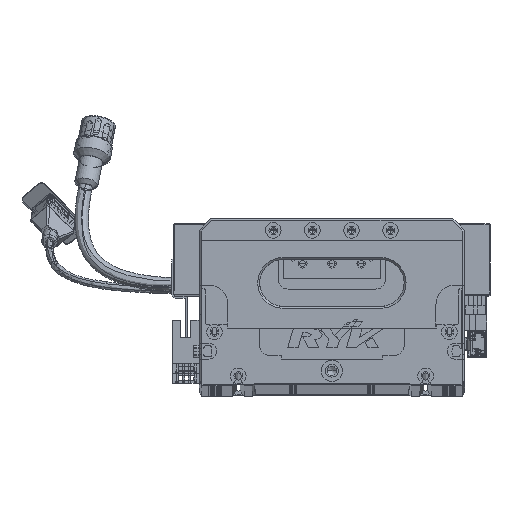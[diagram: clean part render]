
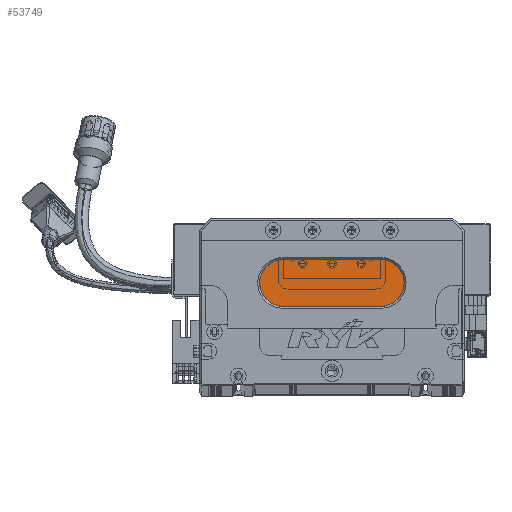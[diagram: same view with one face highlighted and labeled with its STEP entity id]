
A CAD part, top view. The second image highlights one B-rep face of the part: STEP entity #53749.
In plain terms, the highlighted planar face has unit normal (0, 0, 1) as drawn and (0, 0, -1) by its records, which use the part's own axes.
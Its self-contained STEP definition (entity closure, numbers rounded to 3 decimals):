
#1346 = ORIENTED_EDGE ( 'NONE', *, *, #56340, .T. ) ;
#1776 = CARTESIAN_POINT ( 'NONE',  ( 43., 52., 13. ) ) ;
#11512 = VECTOR ( 'NONE', #16950, 1000. ) ;
#16684 = DIRECTION ( 'NONE',  ( -1., 0., 0. ) ) ;
#16950 = DIRECTION ( 'NONE',  ( 1., 0., 0. ) ) ;
#17619 = CIRCLE ( 'NONE', #44442, 12. ) ;
#17772 = VERTEX_POINT ( 'NONE', #124616 ) ;
#23799 = CARTESIAN_POINT ( 'NONE',  ( 93., 64., 13. ) ) ;
#32136 = VERTEX_POINT ( 'NONE', #53860 ) ;
#34214 = ORIENTED_EDGE ( 'NONE', *, *, #44979, .T. ) ;
#37790 = ORIENTED_EDGE ( 'NONE', *, *, #74144, .T. ) ;
#39847 = CARTESIAN_POINT ( 'NONE',  ( 43., 52., 13. ) ) ;
#44442 = AXIS2_PLACEMENT_3D ( 'NONE', #1776, #125544, #79987 ) ;
#44979 = EDGE_CURVE ( 'NONE', #119228, #88214, #69531, .T. ) ;
#47002 = VECTOR ( 'NONE', #104078, 1000. ) ;
#48633 = CARTESIAN_POINT ( 'NONE',  ( 93., 40., 13. ) ) ;
#52320 = ORIENTED_EDGE ( 'NONE', *, *, #120965, .T. ) ;
#53749 = ADVANCED_FACE ( 'NONE', ( #142530 ), #129526, .T. ) ;
#53860 = CARTESIAN_POINT ( 'NONE',  ( 93., 40., 13. ) ) ;
#55761 = VERTEX_POINT ( 'NONE', #59501 ) ;
#56340 = EDGE_CURVE ( 'NONE', #55761, #119228, #17619, .T. ) ;
#59501 = CARTESIAN_POINT ( 'NONE',  ( 31., 52., 13. ) ) ;
#62308 = CARTESIAN_POINT ( 'NONE',  ( 93., 52., 13. ) ) ;
#66626 = EDGE_CURVE ( 'NONE', #17772, #55761, #139294, .T. ) ;
#69531 = LINE ( 'NONE', #96087, #11512 ) ;
#69638 = CARTESIAN_POINT ( 'NONE',  ( 43., 64., 13. ) ) ;
#71699 = LINE ( 'NONE', #48633, #47002 ) ;
#74144 = EDGE_CURVE ( 'NONE', #88214, #32136, #135594, .T. ) ;
#78657 = AXIS2_PLACEMENT_3D ( 'NONE', #140462, #107486, #107963 ) ;
#79987 = DIRECTION ( 'NONE',  ( -1., 0., 0. ) ) ;
#84609 = ORIENTED_EDGE ( 'NONE', *, *, #66626, .T. ) ;
#88214 = VERTEX_POINT ( 'NONE', #23799 ) ;
#94386 = DIRECTION ( 'NONE',  ( 0., 0., -1. ) ) ;
#96087 = CARTESIAN_POINT ( 'NONE',  ( 93., 64., 13. ) ) ;
#97578 = DIRECTION ( 'NONE',  ( -1., 0., 0. ) ) ;
#104078 = DIRECTION ( 'NONE',  ( -1., 0., 0. ) ) ;
#107486 = DIRECTION ( 'NONE',  ( 0., 0., -1. ) ) ;
#107963 = DIRECTION ( 'NONE',  ( -1., 0., 0. ) ) ;
#119228 = VERTEX_POINT ( 'NONE', #69638 ) ;
#120965 = EDGE_CURVE ( 'NONE', #32136, #17772, #71699, .T. ) ;
#124616 = CARTESIAN_POINT ( 'NONE',  ( 43., 40., 13. ) ) ;
#125079 = AXIS2_PLACEMENT_3D ( 'NONE', #62308, #142309, #97578 ) ;
#125544 = DIRECTION ( 'NONE',  ( 0., 0., -1. ) ) ;
#129526 = PLANE ( 'NONE',  #125079 ) ;
#132210 = EDGE_LOOP ( 'NONE', ( #37790, #52320, #84609, #1346, #34214 ) ) ;
#135594 = CIRCLE ( 'NONE', #78657, 12. ) ;
#139294 = CIRCLE ( 'NONE', #143149, 12. ) ;
#140462 = CARTESIAN_POINT ( 'NONE',  ( 93., 52., 13. ) ) ;
#142309 = DIRECTION ( 'NONE',  ( 0., 0., -1. ) ) ;
#142530 = FACE_OUTER_BOUND ( 'NONE', #132210, .T. ) ;
#143149 = AXIS2_PLACEMENT_3D ( 'NONE', #39847, #94386, #16684 ) ;
